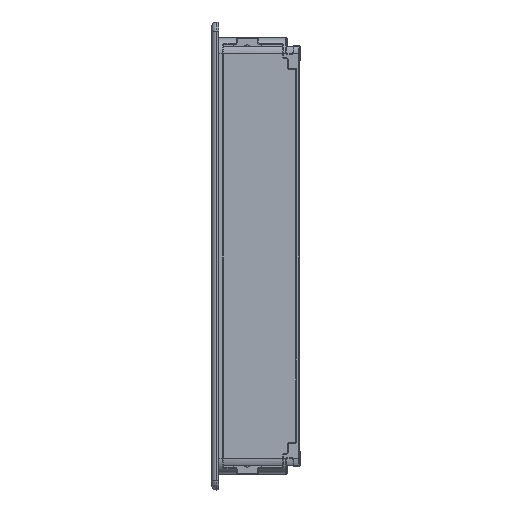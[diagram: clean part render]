
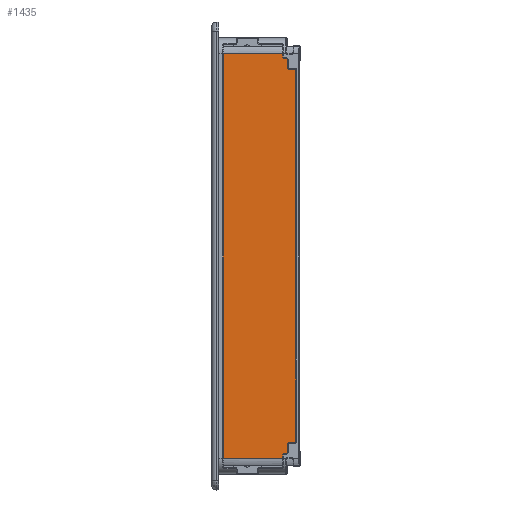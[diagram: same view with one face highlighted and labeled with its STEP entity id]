
A CAD part, left-side view. The second image highlights one B-rep face of the part: STEP entity #1435.
In plain terms, the highlighted planar face has unit normal (-1, 0, 0).
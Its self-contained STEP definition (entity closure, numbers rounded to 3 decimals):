
#409=CARTESIAN_POINT('',(-109.05,-1.5,64.001));
#410=VERTEX_POINT('',#409);
#418=CARTESIAN_POINT('',(-109.05,-20.3,64.001));
#419=VERTEX_POINT('',#418);
#420=CARTESIAN_POINT('',(-109.05,-1.5,64.001));
#421=DIRECTION('',(0.0,-1.0,0.0));
#422=VECTOR('',#421,18.8);
#423=LINE('',#420,#422);
#424=EDGE_CURVE('',#410,#419,#423,.T.);
#1278=CARTESIAN_POINT('',(-109.05,-1.5,-64.0));
#1279=DIRECTION('',(-1.0,0.0,0.0));
#1280=DIRECTION('',(0.0,0.0,1.0));
#1281=AXIS2_PLACEMENT_3D('',#1278,#1279,#1280);
#1282=PLANE('',#1281);
#1283=CARTESIAN_POINT('',(-109.05,-20.3,62.901));
#1284=VERTEX_POINT('',#1283);
#1285=CARTESIAN_POINT('',(-109.05,-20.3,64.001));
#1286=DIRECTION('',(0.0,0.0,-1.0));
#1287=VECTOR('',#1286,1.1);
#1288=LINE('',#1285,#1287);
#1289=EDGE_CURVE('',#419,#1284,#1288,.T.);
#1290=ORIENTED_EDGE('',*,*,#1289,.F.);
#1291=ORIENTED_EDGE('',*,*,#424,.F.);
#1292=CARTESIAN_POINT('',(-109.05,-1.5,-64.0));
#1293=VERTEX_POINT('',#1292);
#1294=CARTESIAN_POINT('',(-109.05,-1.5,-64.0));
#1295=DIRECTION('',(0.0,0.0,1.0));
#1296=VECTOR('',#1295,128.001);
#1297=LINE('',#1294,#1296);
#1298=EDGE_CURVE('',#1293,#410,#1297,.T.);
#1299=ORIENTED_EDGE('',*,*,#1298,.F.);
#1300=CARTESIAN_POINT('',(-109.05,-20.3,-64.0));
#1301=VERTEX_POINT('',#1300);
#1302=CARTESIAN_POINT('',(-109.05,-1.5,-64.0));
#1303=DIRECTION('',(0.0,-1.0,0.0));
#1304=VECTOR('',#1303,18.8);
#1305=LINE('',#1302,#1304);
#1306=EDGE_CURVE('',#1293,#1301,#1305,.T.);
#1307=ORIENTED_EDGE('',*,*,#1306,.T.);
#1308=CARTESIAN_POINT('',(-109.05,-20.3,-62.9));
#1309=VERTEX_POINT('',#1308);
#1310=CARTESIAN_POINT('',(-109.05,-20.3,-62.9));
#1311=DIRECTION('',(0.0,0.0,-1.0));
#1312=VECTOR('',#1311,1.1);
#1313=LINE('',#1310,#1312);
#1314=EDGE_CURVE('',#1309,#1301,#1313,.T.);
#1315=ORIENTED_EDGE('',*,*,#1314,.F.);
#1316=CARTESIAN_POINT('',(-109.05,-20.8,-62.4));
#1317=VERTEX_POINT('',#1316);
#1318=CARTESIAN_POINT('',(-109.05,-20.8,-62.9));
#1319=DIRECTION('',(-1.0,0.,0.));
#1320=DIRECTION('',(0.,1.0,0.));
#1321=AXIS2_PLACEMENT_3D('',#1318,#1319,#1320);
#1322=CIRCLE('',#1321,0.5);
#1323=EDGE_CURVE('',#1317,#1309,#1322,.T.);
#1324=ORIENTED_EDGE('',*,*,#1323,.F.);
#1325=CARTESIAN_POINT('',(-109.05,-21.3,-62.4));
#1326=VERTEX_POINT('',#1325);
#1327=CARTESIAN_POINT('',(-109.05,-21.3,-62.4));
#1328=DIRECTION('',(0.0,1.0,0.0));
#1329=VECTOR('',#1328,0.5);
#1330=LINE('',#1327,#1329);
#1331=EDGE_CURVE('',#1326,#1317,#1330,.T.);
#1332=ORIENTED_EDGE('',*,*,#1331,.F.);
#1333=CARTESIAN_POINT('',(-109.05,-21.8,-61.9));
#1334=VERTEX_POINT('',#1333);
#1335=CARTESIAN_POINT('',(-109.05,-21.3,-61.9));
#1336=DIRECTION('',(1.0,0.0,0.0));
#1337=DIRECTION('',(0.0,1.0,0.0));
#1338=AXIS2_PLACEMENT_3D('',#1335,#1336,#1337);
#1339=CIRCLE('',#1338,0.5);
#1340=EDGE_CURVE('',#1334,#1326,#1339,.T.);
#1341=ORIENTED_EDGE('',*,*,#1340,.F.);
#1342=CARTESIAN_POINT('',(-109.05,-21.8,-59.55));
#1343=VERTEX_POINT('',#1342);
#1344=CARTESIAN_POINT('',(-109.05,-21.8,-59.55));
#1345=DIRECTION('',(0.0,0.0,-1.0));
#1346=VECTOR('',#1345,2.35);
#1347=LINE('',#1344,#1346);
#1348=EDGE_CURVE('',#1343,#1334,#1347,.T.);
#1349=ORIENTED_EDGE('',*,*,#1348,.F.);
#1350=CARTESIAN_POINT('',(-109.05,-22.3,-59.05));
#1351=VERTEX_POINT('',#1350);
#1352=CARTESIAN_POINT('',(-109.05,-22.3,-59.55));
#1353=DIRECTION('',(1.0,0.0,0.0));
#1354=DIRECTION('',(0.0,-1.0,0.0));
#1355=AXIS2_PLACEMENT_3D('',#1352,#1353,#1354);
#1356=CIRCLE('',#1355,0.5);
#1357=EDGE_CURVE('',#1343,#1351,#1356,.T.);
#1358=ORIENTED_EDGE('',*,*,#1357,.T.);
#1359=CARTESIAN_POINT('',(-109.05,-23.9,-59.05));
#1360=VERTEX_POINT('',#1359);
#1361=CARTESIAN_POINT('',(-109.05,-22.3,-59.05));
#1362=DIRECTION('',(0.0,-1.0,0.0));
#1363=VECTOR('',#1362,1.6);
#1364=LINE('',#1361,#1363);
#1365=EDGE_CURVE('',#1351,#1360,#1364,.T.);
#1366=ORIENTED_EDGE('',*,*,#1365,.T.);
#1367=CARTESIAN_POINT('',(-109.05,-24.4,-58.55));
#1368=VERTEX_POINT('',#1367);
#1369=CARTESIAN_POINT('',(-109.05,-23.9,-58.55));
#1370=DIRECTION('',(1.0,0.0,0.0));
#1371=DIRECTION('',(0.0,-1.0,0.0));
#1372=AXIS2_PLACEMENT_3D('',#1369,#1370,#1371);
#1373=CIRCLE('',#1372,0.5);
#1374=EDGE_CURVE('',#1368,#1360,#1373,.T.);
#1375=ORIENTED_EDGE('',*,*,#1374,.F.);
#1376=CARTESIAN_POINT('',(-109.05,-24.4,59.051));
#1377=VERTEX_POINT('',#1376);
#1378=CARTESIAN_POINT('',(-109.05,-24.4,59.051));
#1379=DIRECTION('',(0.0,0.0,-1.0));
#1380=VECTOR('',#1379,117.601);
#1381=LINE('',#1378,#1380);
#1382=EDGE_CURVE('',#1377,#1368,#1381,.T.);
#1383=ORIENTED_EDGE('',*,*,#1382,.F.);
#1384=CARTESIAN_POINT('',(-109.05,-22.3,59.051));
#1385=VERTEX_POINT('',#1384);
#1386=CARTESIAN_POINT('',(-109.05,-22.3,59.051));
#1387=DIRECTION('',(0.0,-1.0,0.0));
#1388=VECTOR('',#1387,2.1);
#1389=LINE('',#1386,#1388);
#1390=EDGE_CURVE('',#1385,#1377,#1389,.T.);
#1391=ORIENTED_EDGE('',*,*,#1390,.F.);
#1392=CARTESIAN_POINT('',(-109.05,-21.8,59.551));
#1393=VERTEX_POINT('',#1392);
#1394=CARTESIAN_POINT('',(-109.05,-22.3,59.551));
#1395=DIRECTION('',(1.0,0.0,0.0));
#1396=DIRECTION('',(0.0,1.0,0.));
#1397=AXIS2_PLACEMENT_3D('',#1394,#1395,#1396);
#1398=CIRCLE('',#1397,0.5);
#1399=EDGE_CURVE('',#1385,#1393,#1398,.T.);
#1400=ORIENTED_EDGE('',*,*,#1399,.T.);
#1401=CARTESIAN_POINT('',(-109.05,-21.8,61.901));
#1402=VERTEX_POINT('',#1401);
#1403=CARTESIAN_POINT('',(-109.05,-21.8,61.901));
#1404=DIRECTION('',(0.0,0.0,-1.0));
#1405=VECTOR('',#1404,2.35);
#1406=LINE('',#1403,#1405);
#1407=EDGE_CURVE('',#1402,#1393,#1406,.T.);
#1408=ORIENTED_EDGE('',*,*,#1407,.F.);
#1409=CARTESIAN_POINT('',(-109.05,-21.3,62.401));
#1410=VERTEX_POINT('',#1409);
#1411=CARTESIAN_POINT('',(-109.05,-21.3,61.901));
#1412=DIRECTION('',(1.0,0.0,0.0));
#1413=DIRECTION('',(0.0,-1.0,0.0));
#1414=AXIS2_PLACEMENT_3D('',#1411,#1412,#1413);
#1415=CIRCLE('',#1414,0.5);
#1416=EDGE_CURVE('',#1410,#1402,#1415,.T.);
#1417=ORIENTED_EDGE('',*,*,#1416,.F.);
#1418=CARTESIAN_POINT('',(-109.05,-20.8,62.401));
#1419=VERTEX_POINT('',#1418);
#1420=CARTESIAN_POINT('',(-109.05,-20.8,62.401));
#1421=DIRECTION('',(0.0,-1.0,0.0));
#1422=VECTOR('',#1421,0.5);
#1423=LINE('',#1420,#1422);
#1424=EDGE_CURVE('',#1419,#1410,#1423,.T.);
#1425=ORIENTED_EDGE('',*,*,#1424,.F.);
#1426=CARTESIAN_POINT('',(-109.05,-20.8,62.901));
#1427=DIRECTION('',(-1.0,0.0,0.0));
#1428=DIRECTION('',(0.0,0.0,1.0));
#1429=AXIS2_PLACEMENT_3D('',#1426,#1427,#1428);
#1430=CIRCLE('',#1429,0.5);
#1431=EDGE_CURVE('',#1284,#1419,#1430,.T.);
#1432=ORIENTED_EDGE('',*,*,#1431,.F.);
#1433=EDGE_LOOP('',(#1290,#1291,#1299,#1307,#1315,#1324,#1332,#1341,#1349,#1358,#1366,#1375,#1383,#1391,#1400,#1408,#1417,#1425,#1432));
#1434=FACE_OUTER_BOUND('',#1433,.T.);
#1435=ADVANCED_FACE('',(#1434),#1282,.T.);
